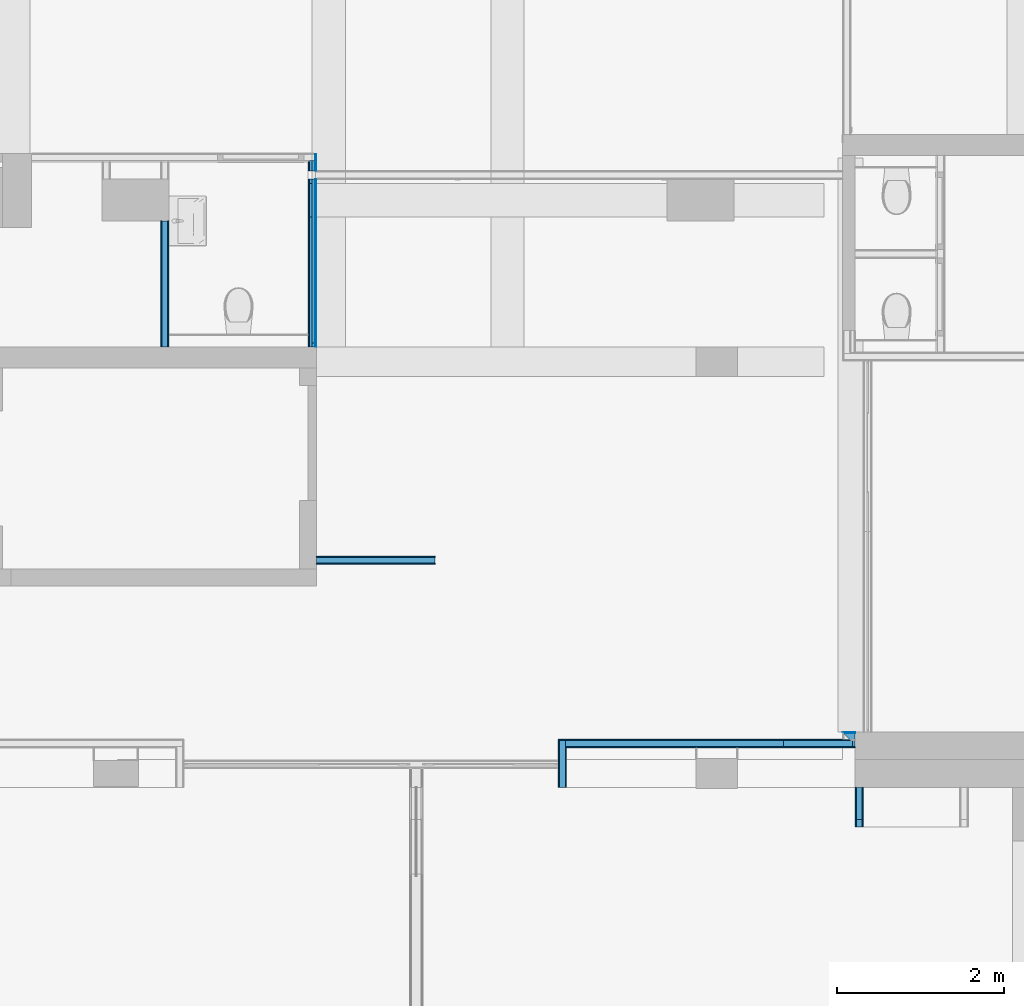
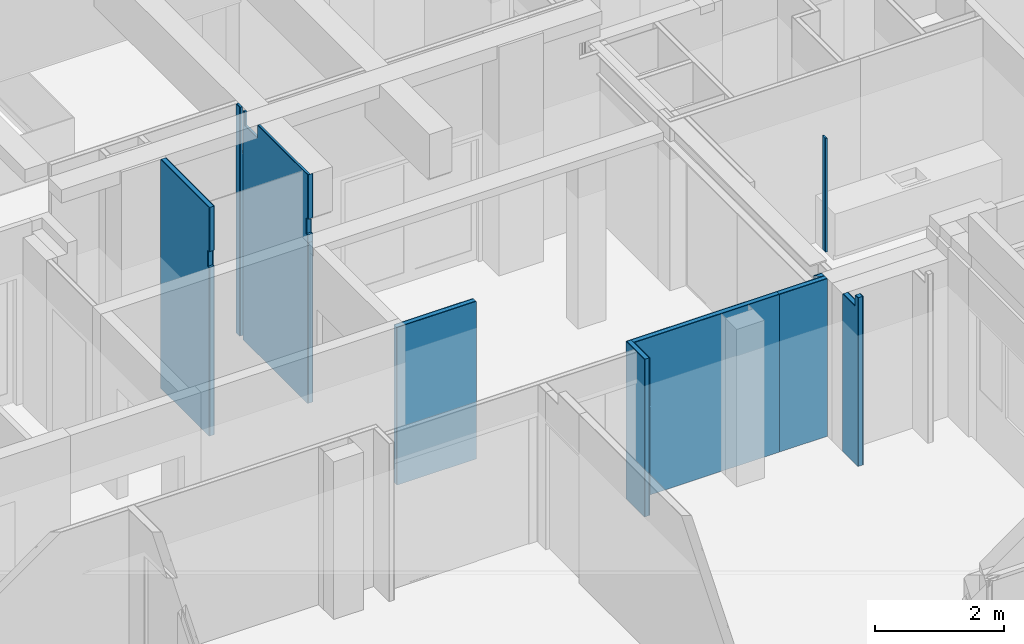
# One storey, part 75 of 117: 23 building element parts, 8 elements without a shape of their own.
"""IFC2X3 building model written with IfcOpenShell, lengths in millimetres."""

from ifc_helpers import new_model, entity, si_unit, converted_unit, derived_unit, money_unit, direction, frame, origin_with_axes, place, context, subcontext, project, spatial, faceted_brep, material, type_object, element, aggregate, save


model = new_model("IFC2X3")

# Units and contexts
model_context = context("Model", 3, precision=0.01, world=origin_with_axes(), true_north=direction((0.0, 1.0)))
body_context = subcontext(model_context, "Body", "Model", "MODEL_VIEW")
ifc_project = project(units=[si_unit("LENGTHUNIT", "METRE", prefix="MILLI"), si_unit("AREAUNIT", "SQUARE_METRE"), si_unit("VOLUMEUNIT", "CUBIC_METRE"), converted_unit("PLANEANGLEUNIT", "DEGREE", entity("IfcPlaneAngleMeasure", 0.0174532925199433), si_unit("PLANEANGLEUNIT", "RADIAN"), dimensions=[0, 0, 0, 0, 0, 0, 0]), money_unit("EUR"), converted_unit("TIMEUNIT", "Year", entity("IfcTimeMeasure", 31557600.0), si_unit("TIMEUNIT", "SECOND"), dimensions=[0, 0, 1, 0, 0, 0, 0]), si_unit("MASSUNIT", "GRAM", prefix="KILO"), si_unit("THERMODYNAMICTEMPERATUREUNIT", "DEGREE_CELSIUS"), si_unit("LUMINOUSINTENSITYUNIT", "LUMEN"), si_unit("ENERGYUNIT", "JOULE", prefix="MEGA"), derived_unit("THERMALCONDUCTANCEUNIT", [(si_unit("POWERUNIT", "WATT"), 1), (si_unit("LENGTHUNIT", "METRE"), -1), (si_unit("THERMODYNAMICTEMPERATUREUNIT", "KELVIN"), -1)]), derived_unit("SPECIFICHEATCAPACITYUNIT", [(si_unit("ENERGYUNIT", "JOULE"), 1), (si_unit("MASSUNIT", "GRAM", prefix="KILO"), -1), (si_unit("THERMODYNAMICTEMPERATUREUNIT", "KELVIN"), -1)]), derived_unit("MASSDENSITYUNIT", [(si_unit("MASSUNIT", "GRAM", prefix="KILO"), 1), (si_unit("VOLUMEUNIT", "CUBIC_METRE"), -1)])], contexts=[model_context])

# Site, building, storey
site_placement = place(None, origin_with_axes())
site = spatial("IfcSite", under=ifc_project, at=site_placement, Name="Site", CompositionType="ELEMENT")
building_placement = place(site_placement, origin_with_axes())
building = spatial("IfcBuilding", under=site, at=building_placement, Name="Naam gebouw", CompositionType="ELEMENT")
storey_placement = place(building_placement, frame((0.0, 0.0, 4150.0), z_axis=(0.0, 0.0, 1.0), x_axis=(1.0, 0.0, 0.0)))
storey = spatial("IfcBuildingStorey", under=building, at=storey_placement, Name="1e verdieping N", CompositionType="ELEMENT", Elevation=4150.0)

# Wall, building element parts
wall_type = type_object("IfcWallType", Name="Metalstud iso 100 100", PredefinedType="NOTDEFINED")
wall_1_placement = place(storey_placement, frame((24002.99999999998, 17824.75122651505, 0.0), z_axis=(0.0, 0.0, 1.0), x_axis=(0.0, -1.0, 0.0)))
wall_1 = element("IfcWall", 1, at=wall_1_placement, inside=storey, type_object=wall_type, Name="_Wand-x")
ifc_material_1 = material(Name="Gipsplaat")
building_element_part_1_placement = place(wall_1_placement, origin_with_axes())
building_element_part_1 = element("IfcBuildingElementPart", 2, at=building_element_part_1_placement, material=ifc_material_1, Name="Gipsplaat", context=body_context, shape_type="Brep", body=[
    faceted_brep([(-87.49999999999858, -12.49999999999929, 3449.999999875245), (-87.49999999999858, 0.0, 3449.999999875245), (-87.49999999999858, 0.0, 0.0), (-87.49999999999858, -12.49999999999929, 0.0), (108.8388014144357, 0.0, 3449.999999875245), (108.8388014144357, -12.49999999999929, 3449.999999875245), (108.8388014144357, 0.0, 0.0), (108.8388014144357, -12.49999999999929, 0.0)], [[[0, 1, 2, 3]], [[4, 1, 0, 5]], [[1, 4, 6, 2]], [[2, 6, 7, 3]], [[5, 0, 3, 7]], [[4, 5, 7, 6]]]),
    faceted_brep([(2216.338801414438, 0.0, 3500.0), (2216.338801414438, 0.0, 4340.0), (2218.143186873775, 0.0, 4340.0), (2218.143186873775, 0.0, 3500.0), (2216.338801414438, -12.49999999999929, 4340.0), (2216.338801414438, -12.49999999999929, 3500.0), (2218.143186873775, -12.49999999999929, 4340.0), (2218.143186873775, -12.49999999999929, 3500.0)], [[[0, 1, 2, 3]], [[4, 1, 0, 5]], [[1, 4, 6, 2]], [[6, 7, 3, 2]], [[5, 0, 3, 7]], [[4, 5, 7, 6]]]),
    faceted_brep([(208.8388014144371, -12.49999999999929, 3449.999999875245), (208.8388014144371, 0.0, 3449.999999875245), (208.8388014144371, 0.0, 0.0), (208.8388014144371, -12.49999999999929, 0.0), (2173.838770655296, 0.0, 3449.999999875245), (2173.838770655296, -12.49999999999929, 3449.999999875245), (2173.838770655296, 0.0, 3200.0), (2216.338801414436, 0.0, 3200.0), (2216.338801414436, 0.0, 3049.999999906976), (2218.143186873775, 0.0, 3049.999999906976), (2218.143186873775, 0.0, 0.0), (2218.143186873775, -12.49999999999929, 0.0), (2218.143186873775, -12.49999999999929, 3049.999999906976), (2216.338801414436, -12.49999999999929, 3049.999999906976), (2216.338801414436, -12.49999999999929, 3200.0), (2173.838770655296, -12.49999999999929, 3200.0)], [[[0, 1, 2, 3]], [[4, 1, 0, 5]], [[1, 4, 6, 7, 8, 9, 10, 2]], [[3, 2, 10, 11]], [[5, 0, 3, 11, 12, 13, 14, 15]], [[4, 5, 15, 6]], [[14, 7, 6, 15]], [[8, 7, 14, 13]], [[9, 8, 13, 12]], [[9, 12, 11, 10]]]),
])
building_element_part_2_placement = place(wall_1_placement, origin_with_axes())
building_element_part_2 = element("IfcBuildingElementPart", 3, at=building_element_part_2_placement, material=ifc_material_1, Name="Gipsplaat", context=body_context, shape_type="Brep", body=[
    faceted_brep([(0.0, -87.49999999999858, 0.0), (108.8388014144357, -87.49999999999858, 0.0), (108.8388014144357, -100.0000000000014, 0.0), (0.0, -100.0000000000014, 0.0), (0.0, -87.49999999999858, 4340.0), (108.8388014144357, -87.49999999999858, 4340.0), (108.8388014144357, -100.0000000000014, 4340.0), (0.0, -100.0000000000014, 4340.0)], [[[0, 1, 2, 3]], [[4, 5, 1, 0]], [[6, 2, 1, 5]], [[3, 2, 6, 7]], [[7, 4, 0, 3]], [[7, 6, 5, 4]]]),
    faceted_brep([(258.8388014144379, -100.0000000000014, 4340.0), (258.8388014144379, -87.49999999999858, 4340.0), (208.8388014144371, -87.49999999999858, 4340.0), (208.8388014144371, -100.0000000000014, 4340.0), (258.8388014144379, -87.49999999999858, 4089.999999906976), (258.8388014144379, -100.0000000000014, 4089.999999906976), (658.8388014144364, -87.49999999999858, 4089.999999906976), (658.8388014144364, -87.49999999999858, 4340.0), (2218.143186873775, -87.49999999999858, 4340.0), (2218.143186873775, -87.49999999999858, 3500.0), (2173.838770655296, -87.49999999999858, 3500.0), (2173.838770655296, -87.49999999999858, 3200.0), (2216.338801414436, -87.49999999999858, 3200.0), (2216.338801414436, -87.49999999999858, 3049.999999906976), (2218.143186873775, -87.49999999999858, 3049.999999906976), (2218.143186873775, -87.49999999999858, 0.0), (208.8388014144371, -87.49999999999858, 0.0), (208.8388014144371, -100.0000000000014, 0.0), (2218.143186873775, -100.0000000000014, 0.0), (2218.143186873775, -100.0000000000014, 3049.999999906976), (2216.338801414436, -100.0000000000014, 3049.999999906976), (2216.338801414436, -100.0000000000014, 3200.0), (2173.838770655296, -100.0000000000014, 3200.0), (2173.838770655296, -100.0000000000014, 3500.0), (2218.143186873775, -100.0000000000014, 3500.0), (2218.143186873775, -100.0000000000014, 4340.0), (658.8388014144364, -100.0000000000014, 4340.0), (658.8388014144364, -100.0000000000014, 4089.999999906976)], [[[0, 1, 2, 3]], [[4, 1, 0, 5]], [[6, 7, 8, 9, 10, 11, 12, 13, 14, 15, 16, 2, 1, 4]], [[3, 2, 16, 17]], [[5, 0, 3, 17, 18, 19, 20, 21, 22, 23, 24, 25, 26, 27]], [[6, 4, 5, 27]], [[26, 7, 6, 27]], [[7, 26, 25, 8]], [[25, 24, 9, 8]], [[23, 10, 9, 24]], [[22, 11, 10, 23]], [[21, 12, 11, 22]], [[13, 12, 21, 20]], [[14, 13, 20, 19]], [[14, 19, 18, 15]], [[17, 16, 15, 18]]]),
])
ifc_material_2 = material(Name="Isolatie - Steenwol LSW")
building_element_part_3_placement = place(wall_1_placement, origin_with_axes())
building_element_part_3 = element("IfcBuildingElementPart", 4, at=building_element_part_3_placement, material=ifc_material_2, Name="Isolatie - Steenwol LSW", context=body_context, shape_type="Brep", body=[
    faceted_brep([(-12.49999999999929, -52.99999999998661, 4340.0), (-12.49999999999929, -52.99999999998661, 3449.999999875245), (-12.49999999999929, -12.49999999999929, 3449.999999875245), (-12.49999999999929, -12.49999999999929, 0.0), (-12.49999999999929, -87.49999999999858, 0.0), (-12.49999999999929, -87.49999999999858, 4340.0), (108.8388014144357, -52.99999999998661, 4340.0), (108.8388014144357, -52.99999999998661, 3449.999999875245), (108.8388014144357, -12.49999999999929, 3449.999999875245), (108.8388014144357, -12.49999999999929, 0.0), (108.8388014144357, -87.49999999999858, 0.0), (108.8388014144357, -87.49999999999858, 4340.0)], [[[0, 1, 2, 3, 4, 5]], [[1, 0, 6, 7]], [[8, 2, 1, 7]], [[2, 8, 9, 3]], [[3, 9, 10, 4]], [[4, 10, 11, 5]], [[6, 0, 5, 11]], [[7, 6, 11, 10, 9, 8]]]),
    faceted_brep([(208.8388014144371, -52.99999999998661, 4340.0), (208.8388014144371, -52.99999999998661, 3449.999999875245), (208.8388014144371, -12.49999999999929, 3449.999999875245), (208.8388014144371, -12.49999999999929, 0.0), (208.8388014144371, -87.49999999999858, 0.0), (208.8388014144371, -87.49999999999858, 4340.0), (258.8388014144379, -52.99999999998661, 4340.0), (258.8388014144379, -52.99999999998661, 4089.999999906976), (658.8388014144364, -52.99999999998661, 4089.999999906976), (658.8388014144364, -52.99999999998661, 4340.0), (2216.338801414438, -52.99999999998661, 4340.0), (2216.338801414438, -52.99999999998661, 3500.0), (2173.838770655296, -52.99999999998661, 3500.0), (2173.838770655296, -52.99999999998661, 3449.999999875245), (2173.838770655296, -12.49999999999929, 3449.999999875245), (2173.838770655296, -12.49999999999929, 3200.0), (2216.338801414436, -12.49999999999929, 3200.0), (2216.338801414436, -12.49999999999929, 3049.999999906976), (2218.143186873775, -12.49999999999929, 3049.999999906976), (2218.143186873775, -12.49999999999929, 0.0), (2218.143186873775, -87.49999999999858, 0.0), (258.8388014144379, -87.49999999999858, 4089.999999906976), (258.8388014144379, -87.49999999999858, 4340.0), (2218.143186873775, -87.49999999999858, 3049.999999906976), (2216.338801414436, -87.49999999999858, 3049.999999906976), (2216.338801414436, -87.49999999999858, 3200.0), (2173.838770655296, -87.49999999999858, 3200.0), (2173.838770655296, -87.49999999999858, 3500.0), (2218.143186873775, -87.49999999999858, 3500.0), (2218.143186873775, -87.49999999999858, 4340.0), (658.8388014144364, -87.49999999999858, 4340.0), (658.8388014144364, -87.49999999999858, 4089.999999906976), (2218.143186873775, -12.49999999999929, 4340.0), (2216.338801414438, -12.49999999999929, 4340.0), (2216.338801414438, -12.49999999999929, 3500.0), (2218.143186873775, -12.49999999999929, 3500.0)], [[[0, 1, 2, 3, 4, 5]], [[1, 0, 6, 7, 8, 9, 10, 11, 12, 13]], [[14, 2, 1, 13]], [[2, 14, 15, 16, 17, 18, 19, 3]], [[4, 3, 19, 20]], [[21, 22, 5, 4, 20, 23, 24, 25, 26, 27, 28, 29, 30, 31]], [[6, 0, 5, 22]], [[7, 6, 22, 21]], [[8, 7, 21, 31]], [[9, 8, 31, 30]], [[10, 9, 30, 29, 32, 33]], [[10, 33, 34, 11]], [[11, 34, 35, 28, 27, 12]], [[13, 12, 27, 26, 15, 14]], [[25, 16, 15, 26]], [[17, 16, 25, 24]], [[18, 17, 24, 23]], [[18, 23, 20, 19]], [[29, 28, 35, 32]], [[34, 33, 32, 35]]]),
])
aggregate(wall_1, [building_element_part_1, building_element_part_2, building_element_part_3])

wall_2_placement = place(storey_placement, frame((22136.0, 17115.91242510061, 0.0), z_axis=(0.0, 0.0, 1.0), x_axis=(0.0, -1.0, 0.0)))
wall_2 = element("IfcWall", 5, at=wall_2_placement, inside=storey, type_object=wall_type, Name="_Wand-x")
building_element_part_4_placement = place(wall_2_placement, origin_with_axes())
building_element_part_4 = element("IfcBuildingElementPart", 6, at=building_element_part_4_placement, material=ifc_material_1, Name="Gipsplaat", context=body_context, shape_type="Brep", body=[
    faceted_brep([(1464.999969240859, 12.49999999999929, 3500.0), (1464.999969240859, 12.49999999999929, 3200.0), (1509.304385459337, 12.49999999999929, 3200.0), (1509.304385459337, 12.49999999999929, 0.0), (0.0, 12.49999999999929, 0.0), (0.0, 12.49999999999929, 4340.0), (1509.304385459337, 12.49999999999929, 4340.0), (1509.304385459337, 12.49999999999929, 3500.0), (1464.999969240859, 0.0, 3200.0), (1464.999969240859, 0.0, 3500.0), (1509.304385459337, 0.0, 3200.0), (1509.304385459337, 0.0, 0.0), (0.0, 0.0, 0.0), (0.0, 0.0, 4340.0), (1509.304385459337, 0.0, 4340.0), (1509.304385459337, 0.0, 3500.0)], [[[0, 1, 2, 3, 4, 5, 6, 7]], [[8, 1, 0, 9]], [[10, 2, 1, 8]], [[3, 2, 10, 11]], [[12, 4, 3, 11]], [[4, 12, 13, 5]], [[5, 13, 14, 6]], [[14, 15, 7, 6]], [[9, 0, 7, 15]], [[8, 9, 15, 14, 13, 12, 11, 10]]]),
])
building_element_part_5_placement = place(wall_2_placement, origin_with_axes())
building_element_part_5 = element("IfcBuildingElementPart", 7, at=building_element_part_5_placement, material=ifc_material_1, Name="Gipsplaat", context=body_context, shape_type="Brep", body=[
    faceted_brep([(1464.999969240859, 100.0000000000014, 3500.0), (1464.999969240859, 100.0000000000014, 3200.0), (1509.304385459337, 100.0000000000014, 3200.0), (1509.304385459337, 100.0000000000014, 0.0), (0.0, 100.0000000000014, 0.0), (0.0, 100.0000000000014, 4340.0), (1509.304385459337, 100.0000000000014, 4340.0), (1509.304385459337, 100.0000000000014, 3500.0), (1464.999969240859, 87.49999999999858, 3200.0), (1464.999969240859, 87.49999999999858, 3500.0), (1509.304385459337, 87.49999999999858, 3200.0), (1509.304385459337, 87.49999999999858, 0.0), (0.0, 87.49999999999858, 0.0), (0.0, 87.49999999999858, 4340.0), (1509.304385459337, 87.49999999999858, 4340.0), (1509.304385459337, 87.49999999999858, 3500.0)], [[[0, 1, 2, 3, 4, 5, 6, 7]], [[8, 1, 0, 9]], [[10, 2, 1, 8]], [[3, 2, 10, 11]], [[12, 4, 3, 11]], [[4, 12, 13, 5]], [[5, 13, 14, 6]], [[14, 15, 7, 6]], [[9, 0, 7, 15]], [[8, 9, 15, 14, 13, 12, 11, 10]]]),
])
building_element_part_6_placement = place(wall_2_placement, origin_with_axes())
building_element_part_6 = element("IfcBuildingElementPart", 8, at=building_element_part_6_placement, material=ifc_material_2, Name="Isolatie - Steenwol LSW", context=body_context, shape_type="Brep", body=[
    faceted_brep([(1464.999969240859, 87.49999999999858, 3500.0), (1464.999969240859, 87.49999999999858, 3200.0), (1509.304385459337, 87.49999999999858, 3200.0), (1509.304385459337, 87.49999999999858, 0.0), (0.0, 87.49999999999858, 0.0), (0.0, 87.49999999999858, 4340.0), (1509.304385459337, 87.49999999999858, 4340.0), (1509.304385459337, 87.49999999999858, 3500.0), (1464.999969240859, 12.49999999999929, 3200.0), (1464.999969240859, 12.49999999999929, 3500.0), (1509.304385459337, 12.49999999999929, 3200.0), (1509.304385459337, 12.49999999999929, 0.0), (0.0, 12.49999999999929, 0.0), (0.0, 12.49999999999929, 4340.0), (1509.304385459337, 12.49999999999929, 4340.0), (1509.304385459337, 12.49999999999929, 3500.0)], [[[0, 1, 2, 3, 4, 5, 6, 7]], [[8, 1, 0, 9]], [[10, 2, 1, 8]], [[3, 2, 10, 11]], [[12, 4, 3, 11]], [[4, 12, 13, 5]], [[5, 13, 14, 6]], [[14, 15, 7, 6]], [[9, 0, 7, 15]], [[8, 9, 15, 14, 13, 12, 11, 10]]]),
])
aggregate(wall_2, [building_element_part_4, building_element_part_5, building_element_part_6])

wall_3_placement = place(storey_placement, frame((29599.99999999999, 10805.91242510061, 0.0), z_axis=(0.0, 0.0, 1.0), x_axis=(1.0, 0.0, 0.0)))
wall_3 = element("IfcWall", 9, at=wall_3_placement, inside=storey, type_object=wall_type, Name="_Wand-x")
building_element_part_7_placement = place(wall_3_placement, origin_with_axes())
building_element_part_7 = element("IfcBuildingElementPart", 10, at=building_element_part_7_placement, material=ifc_material_2, Name="Isolatie - Steenwol LSW", context=body_context, shape_type="Brep", body=[
    faceted_brep([(0.0, 87.50000000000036, 2990.000000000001), (857.0000065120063, 87.50000000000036, 2990.000000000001), (857.0000065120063, 87.50000000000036, 0.0), (0.0, 87.50000000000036, 0.0), (857.0000065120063, 12.50000000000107, 2990.000000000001), (0.0, 12.49999999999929, 2990.000000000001), (857.0000065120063, 12.49999999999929, 0.0), (0.0, 12.49999999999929, 0.0)], [[[0, 1, 2, 3]], [[4, 1, 0, 5]], [[1, 4, 6, 2]], [[7, 3, 2, 6]], [[5, 0, 3, 7]], [[4, 5, 7, 6]]]),
    faceted_brep([(857.0000065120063, 12.50000000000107, 3500.0), (857.0000065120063, 87.50000000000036, 3500.0), (857.0000065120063, 87.50000000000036, 5659.999999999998), (857.0000065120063, 12.50000000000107, 5659.999999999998), (825.00000000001, 87.50000000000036, 3500.0), (825.00000000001, 12.49999999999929, 3500.0), (825.00000000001, 87.50000000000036, 5659.999999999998), (825.00000000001, 12.50000000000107, 5659.999999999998)], [[[0, 1, 2, 3]], [[4, 1, 0, 5]], [[1, 4, 6, 2]], [[2, 6, 7, 3]], [[5, 0, 3, 7]], [[4, 5, 7, 6]]]),
])
building_element_part_8_placement = place(wall_3_placement, origin_with_axes())
building_element_part_8 = element("IfcBuildingElementPart", 11, at=building_element_part_8_placement, material=ifc_material_1, Name="Gipsplaat", context=body_context, shape_type="Brep", body=[
    faceted_brep([(0.0, 12.49999999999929, 2990.000000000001), (857.0000065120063, 12.50000000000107, 2990.000000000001), (857.0000065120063, 12.49999999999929, 0.0), (0.0, 12.49999999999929, 0.0), (857.0000065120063, 0.0, 2990.000000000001), (0.0, 0.0, 2990.000000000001), (857.0000065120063, 0.0, 0.0), (0.0, 0.0, 0.0)], [[[0, 1, 2, 3]], [[4, 1, 0, 5]], [[1, 4, 6, 2]], [[7, 3, 2, 6]], [[5, 0, 3, 7]], [[4, 5, 7, 6]]]),
    faceted_brep([(857.0000065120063, 0.0, 3500.0), (857.0000065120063, 12.50000000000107, 3500.0), (857.0000065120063, 12.50000000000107, 5659.999999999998), (857.0000065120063, 0.0, 5659.999999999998), (825.00000000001, 12.49999999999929, 3500.0), (825.00000000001, 0.0, 3500.0), (825.00000000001, 12.50000000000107, 5659.999999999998), (825.00000000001, 0.0, 5659.999999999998)], [[[0, 1, 2, 3]], [[4, 1, 0, 5]], [[1, 4, 6, 2]], [[2, 6, 7, 3]], [[5, 0, 3, 7]], [[4, 5, 7, 6]]]),
])
building_element_part_9_placement = place(wall_3_placement, origin_with_axes())
building_element_part_9 = element("IfcBuildingElementPart", 12, at=building_element_part_9_placement, material=ifc_material_1, Name="Gipsplaat", context=body_context, shape_type="Brep", body=[
    faceted_brep([(0.0, 99.99999999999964, 2990.000000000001), (857.0000065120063, 99.99999999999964, 2990.000000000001), (857.0000065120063, 99.99999999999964, 0.0), (0.0, 99.99999999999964, 0.0), (857.0000065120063, 87.50000000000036, 2990.000000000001), (0.0, 87.50000000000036, 2990.000000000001), (857.0000065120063, 87.50000000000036, 0.0), (0.0, 87.50000000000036, 0.0)], [[[0, 1, 2, 3]], [[4, 1, 0, 5]], [[1, 4, 6, 2]], [[7, 3, 2, 6]], [[5, 0, 3, 7]], [[4, 5, 7, 6]]]),
    faceted_brep([(857.0000065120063, 87.50000000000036, 3500.0), (857.0000065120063, 99.99999999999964, 3500.0), (857.0000065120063, 99.99999999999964, 5659.999999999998), (857.0000065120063, 87.50000000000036, 5659.999999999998), (825.00000000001, 99.99999999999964, 3500.0), (825.00000000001, 87.50000000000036, 3500.0), (825.00000000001, 99.99999999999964, 5659.999999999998), (825.00000000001, 87.50000000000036, 5659.999999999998)], [[[0, 1, 2, 3]], [[4, 1, 0, 5]], [[1, 4, 6, 2]], [[2, 6, 7, 3]], [[5, 0, 3, 7]], [[4, 5, 7, 6]]]),
])
aggregate(wall_3, [building_element_part_7, building_element_part_8, building_element_part_9])

wall_4_placement = place(storey_placement, frame((30306.99999999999, 10990.91242510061, 0.0), z_axis=(0.0, 0.0, 1.0), x_axis=(1.0, 0.0, 0.0)))
wall_4 = element("IfcWall", 13, at=wall_4_placement, inside=storey, type_object=wall_type, Name="_Wand-x")
building_element_part_10_placement = place(wall_4_placement, origin_with_axes())
building_element_part_10 = element("IfcBuildingElementPart", 14, at=building_element_part_10_placement, material=ifc_material_1, Name="Gipsplaat", context=body_context, shape_type="Brep", body=[
    faceted_brep([(0.0, 0.0, 2990.000000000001), (149.9999999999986, 0.0, 2990.000000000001), (149.9999999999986, 0.0, 0.0), (0.0, 0.0, 0.0), (149.9999999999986, -12.49999999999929, 2990.000000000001), (12.49999999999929, -12.49999999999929, 2990.000000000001), (149.9999999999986, -12.49999999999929, 0.0), (12.49999999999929, -12.49999999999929, 0.0)], [[[0, 1, 2, 3]], [[4, 1, 0, 5]], [[1, 4, 6, 2]], [[6, 7, 3, 2]], [[5, 0, 3, 7]], [[4, 5, 7, 6]]]),
])
building_element_part_11_placement = place(wall_4_placement, origin_with_axes())
building_element_part_11 = element("IfcBuildingElementPart", 15, at=building_element_part_11_placement, material=ifc_material_2, Name="Isolatie - Steenwol LSW", context=body_context, shape_type="Brep", body=[
    faceted_brep([(12.49999999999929, -12.49999999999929, 2990.000000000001), (149.9999999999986, -12.49999999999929, 2990.000000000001), (149.9999999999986, -12.49999999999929, 0.0), (12.49999999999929, -12.49999999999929, 0.0), (149.9999999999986, -87.50000000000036, 2990.000000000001), (87.50000000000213, -87.50000000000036, 2990.000000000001), (149.9999999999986, -87.50000000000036, 0.0), (87.50000000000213, -87.50000000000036, 0.0)], [[[0, 1, 2, 3]], [[4, 1, 0, 5]], [[1, 4, 6, 2]], [[6, 7, 3, 2]], [[5, 0, 3, 7]], [[4, 5, 7, 6]]]),
])
aggregate(wall_4, [building_element_part_10, building_element_part_11])

wall_5_placement = place(storey_placement, frame((27000.0, 10805.91242510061, 0.0), z_axis=(0.0, 0.0, 1.0), x_axis=(0.0, -1.0, 0.0)))
wall_5 = element("IfcWall", 16, at=wall_5_placement, inside=storey, type_object=wall_type, Name="_Wand-x")
building_element_part_12_placement = place(wall_5_placement, origin_with_axes())
building_element_part_12 = element("IfcBuildingElementPart", 17, at=building_element_part_12_placement, material=ifc_material_1, Name="Gipsplaat", context=body_context, shape_type="Brep", body=[
    faceted_brep([(25.00002620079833, 0.0, 2049.999999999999), (475.0000233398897, 0.0, 2049.999999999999), (475.0000000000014, 0.0, 0.0), (-12.50000000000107, 0.0, 0.0), (-12.49999999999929, 0.0, 2159.999999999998), (-12.50000000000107, 0.0, 2990.000000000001), (475.0000000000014, 0.0, 2990.000000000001), (475.0000233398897, 0.0, 2069.999999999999), (25.00002620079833, 0.0, 2069.999999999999), (25.00002620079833, -12.49999999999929, 2049.999999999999), (475.0000233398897, -12.49999999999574, 2049.999999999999), (475.0000000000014, -12.49999999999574, 0.0), (-12.50000000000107, -12.49999999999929, 0.0), (-12.50000000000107, -12.50000000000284, 2990.000000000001), (-12.49999999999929, -12.49999999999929, 2159.999999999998), (475.0000000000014, -12.49999999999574, 2990.000000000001), (475.0000233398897, -12.49999999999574, 2069.999999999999), (25.00002620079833, -12.49999999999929, 2069.999999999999)], [[[0, 1, 2, 3, 4, 5, 6, 7, 8]], [[1, 0, 9, 10]], [[1, 10, 11, 2]], [[11, 12, 3, 2]], [[13, 5, 4, 3, 12, 14]], [[6, 5, 13, 15]], [[16, 7, 6, 15]], [[8, 7, 16, 17]], [[0, 8, 17, 9]], [[17, 16, 15, 13, 14, 12, 11, 10, 9]]]),
])
building_element_part_13_placement = place(wall_5_placement, origin_with_axes())
building_element_part_13 = element("IfcBuildingElementPart", 18, at=building_element_part_13_placement, material=ifc_material_2, Name="Isolatie - Steenwol LSW", context=body_context, shape_type="Brep", body=[
    faceted_brep([(25.00002620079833, -12.50000000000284, 2049.999999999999), (475.0000233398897, -12.49999999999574, 2049.999999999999), (475.0000000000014, -12.49999999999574, 0.0), (-87.50000000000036, -12.49999999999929, 0.0), (-87.50000000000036, -12.49999999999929, 2159.999999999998), (-87.50000000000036, -12.50000000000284, 2990.000000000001), (475.0000000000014, -12.49999999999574, 2990.000000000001), (475.0000233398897, -12.49999999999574, 2069.999999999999), (25.00002620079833, -12.50000000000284, 2069.999999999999), (25.00002620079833, -14.99999999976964, 2049.999999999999), (475.0000233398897, -14.99999999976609, 2049.999999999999), (475.0000233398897, -14.99999999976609, 2069.999999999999), (475.0000000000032, -87.49999999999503, 2990.000000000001), (475.0000000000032, -87.49999999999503, 0.0), (-87.49999999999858, -87.49999999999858, 0.0), (-87.49999999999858, -87.50000000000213, 2990.000000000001), (-87.49999999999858, -87.49999999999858, 2159.999999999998), (25.00002620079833, -14.99999999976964, 2069.999999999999)], [[[0, 1, 2, 3, 4, 5, 6, 7, 8]], [[1, 0, 9, 10]], [[11, 7, 6, 12, 13, 2, 1, 10]], [[13, 14, 3, 2]], [[15, 5, 4, 3, 14, 16]], [[6, 5, 15, 12]], [[8, 7, 11, 17]], [[0, 8, 17, 9]], [[11, 10, 9, 17]], [[12, 15, 16, 14, 13]]]),
])
building_element_part_14_placement = place(wall_5_placement, origin_with_axes())
building_element_part_14 = element("IfcBuildingElementPart", 19, at=building_element_part_14_placement, material=ifc_material_1, Name="Gipsplaat", context=body_context, shape_type="Brep", body=[
    faceted_brep([(-99.99999915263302, -100.0000071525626, 2990.000000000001), (-100.000003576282, -87.49999999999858, 2990.000000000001), (-100.000003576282, -87.49999999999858, 0.0), (-100.000003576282, -100.0000071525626, 0.0), (-99.99999195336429, -100.0000071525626, 2159.999999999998), (475.0000000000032, -87.49999999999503, 2990.000000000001), (475.0000000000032, -99.99999999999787, 2990.000000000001), (475.0000000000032, -87.49999999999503, 0.0), (475.0000000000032, -99.99999999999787, 0.0)], [[[0, 1, 2, 3, 4]], [[5, 1, 0, 6]], [[1, 5, 7, 2]], [[7, 8, 3, 2]], [[6, 0, 4, 3, 8]], [[5, 6, 8, 7]]]),
])
aggregate(wall_5, [building_element_part_12, building_element_part_13, building_element_part_14])

wall_6_placement = place(storey_placement, frame((30556.99999999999, 10330.91242510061, 0.0), z_axis=(0.0, 0.0, 1.0), x_axis=(0.0, -1.0, 0.0)))
wall_6 = element("IfcWall", 20, at=wall_6_placement, inside=storey, type_object=wall_type, Name="_Wand-x")
building_element_part_15_placement = place(wall_6_placement, origin_with_axes())
building_element_part_15 = element("IfcBuildingElementPart", 21, at=building_element_part_15_placement, material=ifc_material_1, Name="Gipsplaat", context=body_context, shape_type="Brep", body=[
    faceted_brep([(0.0, -12.49999999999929, 2990.000000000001), (0.0, 0.0, 2990.000000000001), (0.0, 0.0, 0.0), (0.0, -12.49999999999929, 0.0), (384.9999999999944, 0.0, 2990.000000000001), (384.9999999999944, -12.49999999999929, 2990.000000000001), (384.9999999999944, 0.0, 3200.000000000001), (474.9999999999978, 0.0, 3200.0), (474.9999999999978, 0.0, 0.0), (474.9999999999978, -12.49999999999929, 0.0), (474.9999999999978, -12.49999999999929, 3200.0), (384.9999999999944, -12.49999999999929, 3200.000000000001)], [[[0, 1, 2, 3]], [[4, 1, 0, 5]], [[4, 6, 7, 8, 2, 1]], [[2, 8, 9, 3]], [[5, 0, 3, 9, 10, 11]], [[11, 6, 4, 5]], [[6, 11, 10, 7]], [[7, 10, 9, 8]]]),
])
building_element_part_16_placement = place(wall_6_placement, origin_with_axes())
building_element_part_16 = element("IfcBuildingElementPart", 22, at=building_element_part_16_placement, material=ifc_material_2, Name="Isolatie - Steenwol LSW", context=body_context, shape_type="Brep", body=[
    faceted_brep([(0.0, -87.49999999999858, 2990.000000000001), (0.0, -12.49999999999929, 2990.000000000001), (0.0, -12.49999999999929, 0.0), (0.0, -87.49999999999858, 0.0), (384.9999999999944, -12.49999999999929, 2990.000000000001), (384.9999999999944, -87.49999999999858, 2990.000000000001), (384.9999999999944, -12.49999999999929, 3200.000000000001), (474.9999999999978, -12.49999999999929, 3200.0), (474.9999999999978, -12.49999999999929, 0.0), (474.9999999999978, -87.49999999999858, 0.0), (474.9999999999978, -87.49999999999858, 3200.0), (384.9999999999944, -87.49999999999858, 3200.000000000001)], [[[0, 1, 2, 3]], [[4, 1, 0, 5]], [[4, 6, 7, 8, 2, 1]], [[2, 8, 9, 3]], [[5, 0, 3, 9, 10, 11]], [[11, 6, 4, 5]], [[6, 11, 10, 7]], [[7, 10, 9, 8]]]),
])
building_element_part_17_placement = place(wall_6_placement, origin_with_axes())
building_element_part_17 = element("IfcBuildingElementPart", 23, at=building_element_part_17_placement, material=ifc_material_1, Name="Gipsplaat", context=body_context, shape_type="Brep", body=[
    faceted_brep([(0.0, -100.0000000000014, 2990.000000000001), (0.0, -87.49999999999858, 2990.000000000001), (0.0, -87.49999999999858, 0.0), (0.0, -100.0000000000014, 0.0), (384.9999999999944, -87.49999999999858, 2990.000000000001), (384.9999999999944, -100.0000000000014, 2990.000000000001), (384.9999999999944, -87.49999999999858, 3200.000000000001), (474.9999999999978, -87.49999999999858, 3200.0), (474.9999999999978, -87.49999999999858, 0.0), (474.9999999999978, -100.0000000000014, 0.0), (474.9999999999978, -100.0000000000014, 3200.0), (384.9999999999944, -100.0000000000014, 3200.000000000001)], [[[0, 1, 2, 3]], [[4, 1, 0, 5]], [[4, 6, 7, 8, 2, 1]], [[2, 8, 9, 3]], [[5, 0, 3, 9, 10, 11]], [[11, 6, 4, 5]], [[6, 11, 10, 7]], [[7, 10, 9, 8]]]),
])
aggregate(wall_6, [building_element_part_15, building_element_part_16, building_element_part_17])

wall_7_placement = place(storey_placement, frame((27000.0, 10805.91242510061, 0.0), z_axis=(0.0, 0.0, 1.0), x_axis=(1.0, 0.0, 0.0)))
wall_7 = element("IfcWall", 24, at=wall_7_placement, inside=storey, type_object=wall_type, Name="_Wand-x")
building_element_part_18_placement = place(wall_7_placement, origin_with_axes())
building_element_part_18 = element("IfcBuildingElementPart", 25, at=building_element_part_18_placement, material=ifc_material_1, Name="Gipsplaat", context=body_context, shape_type="Brep", body=[
    faceted_brep([(-87.50000000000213, 100.000003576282, 2990.000000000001), (2599.999999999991, 99.99999999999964, 2990.000000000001), (2599.999999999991, 99.99999999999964, 0.0), (-87.49999999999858, 100.0000125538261, 0.0), (-87.49999999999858, 100.0000035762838, 2159.999999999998), (2599.999999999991, 87.50000000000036, 2990.000000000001), (-87.50000000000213, 87.50000000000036, 2990.000000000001), (2599.999999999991, 87.50000000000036, 0.0), (-87.49999999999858, 87.50000000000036, 0.0), (-87.49999999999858, 87.50000000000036, 2159.999999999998)], [[[0, 1, 2, 3, 4]], [[5, 1, 0, 6]], [[1, 5, 7, 2]], [[7, 8, 3, 2]], [[6, 0, 4, 3, 8, 9]], [[5, 6, 9, 8, 7]]]),
])
building_element_part_19_placement = place(wall_7_placement, origin_with_axes())
building_element_part_19 = element("IfcBuildingElementPart", 26, at=building_element_part_19_placement, material=ifc_material_2, Name="Isolatie - Steenwol LSW", context=body_context, shape_type="Brep", body=[
    faceted_brep([(-12.50000000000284, 87.50000000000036, 2990.000000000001), (2599.999999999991, 87.50000000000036, 2990.000000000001), (2599.999999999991, 87.50000000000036, 0.0), (-12.49999999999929, 87.50000000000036, 0.0), (-12.49999999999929, 87.50000000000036, 2159.999999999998), (2599.999999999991, 12.49999999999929, 2990.000000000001), (-12.50000000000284, 12.50000000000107, 2990.000000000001), (2599.999999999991, 12.49999999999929, 0.0), (-12.49999999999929, 12.50000000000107, 0.0), (-12.49999999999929, 12.50000000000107, 2159.999999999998)], [[[0, 1, 2, 3, 4]], [[5, 1, 0, 6]], [[1, 5, 7, 2]], [[7, 8, 3, 2]], [[6, 0, 4, 3, 8, 9]], [[5, 6, 9, 8, 7]]]),
])
building_element_part_20_placement = place(wall_7_placement, origin_with_axes())
building_element_part_20 = element("IfcBuildingElementPart", 27, at=building_element_part_20_placement, material=ifc_material_1, Name="Gipsplaat", context=body_context, shape_type="Brep", body=[
    faceted_brep([(0.0, 12.50000000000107, 2990.000000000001), (2599.999999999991, 12.49999999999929, 2990.000000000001), (2599.999999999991, 12.49999999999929, 0.0), (0.0, 12.50000000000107, 0.0), (0.0, 12.50000000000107, 2159.999999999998), (2599.999999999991, 0.0, 2990.000000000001), (0.0, 0.0, 2990.000000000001), (2599.999999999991, 0.0, 0.0), (0.0, 0.0, 0.0)], [[[0, 1, 2, 3, 4]], [[5, 1, 0, 6]], [[1, 5, 7, 2]], [[7, 8, 3, 2]], [[6, 0, 4, 3, 8]], [[5, 6, 8, 7]]]),
])
aggregate(wall_7, [building_element_part_18, building_element_part_19, building_element_part_20])

wall_8_placement = place(storey_placement, frame((23802.99999999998, 13100.91242510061, 0.0), z_axis=(0.0, 0.0, 1.0), x_axis=(1.0, 0.0, 0.0)))
wall_8 = element("IfcWall", 28, at=wall_8_placement, inside=storey, type_object=wall_type, Name="_Wand-x")
building_element_part_21_placement = place(wall_8_placement, origin_with_axes())
building_element_part_21 = element("IfcBuildingElementPart", 29, at=building_element_part_21_placement, material=ifc_material_2, Name="Isolatie - Steenwol LSW", context=body_context, shape_type="Brep", body=[
    faceted_brep([(199.9999999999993, -12.49999999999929, 2990.000000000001), (1623.547923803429, -12.49999999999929, 2990.000000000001), (1623.547923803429, -12.49999999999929, 0.0), (199.9999999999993, -12.49999999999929, 0.0), (1623.547923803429, -87.50000000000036, 2990.000000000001), (199.9999999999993, -87.50000000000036, 2990.000000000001), (1623.547923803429, -87.50000000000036, 0.0), (199.9999999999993, -87.50000000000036, 0.0)], [[[0, 1, 2, 3]], [[4, 1, 0, 5]], [[1, 4, 6, 2]], [[3, 2, 6, 7]], [[5, 0, 3, 7]], [[4, 5, 7, 6]]]),
])
building_element_part_22_placement = place(wall_8_placement, origin_with_axes())
building_element_part_22 = element("IfcBuildingElementPart", 30, at=building_element_part_22_placement, material=ifc_material_1, Name="Gipsplaat", context=body_context, shape_type="Brep", body=[
    faceted_brep([(199.9999999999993, 0.0, 2990.000000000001), (1623.547923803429, 0.0, 2990.000000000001), (1623.547923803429, 0.0, 0.0), (199.9999999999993, 0.0, 0.0), (1623.547923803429, -12.49999999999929, 2990.000000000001), (199.9999999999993, -12.49999999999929, 2990.000000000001), (1623.547923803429, -12.49999999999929, 0.0), (199.9999999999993, -12.49999999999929, 0.0)], [[[0, 1, 2, 3]], [[4, 1, 0, 5]], [[1, 4, 6, 2]], [[3, 2, 6, 7]], [[5, 0, 3, 7]], [[4, 5, 7, 6]]]),
])
building_element_part_23_placement = place(wall_8_placement, origin_with_axes())
building_element_part_23 = element("IfcBuildingElementPart", 31, at=building_element_part_23_placement, material=ifc_material_1, Name="Gipsplaat", context=body_context, shape_type="Brep", body=[
    faceted_brep([(199.9999999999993, -87.50000000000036, 2990.000000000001), (1623.547923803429, -87.50000000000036, 2990.000000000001), (1623.547923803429, -87.50000000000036, 0.0), (199.9999999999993, -87.50000000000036, 0.0), (1623.547923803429, -99.99999999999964, 2990.000000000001), (199.9999999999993, -99.99999999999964, 2990.000000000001), (1623.547923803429, -99.99999999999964, 0.0), (199.9999999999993, -99.99999999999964, 0.0)], [[[0, 1, 2, 3]], [[4, 1, 0, 5]], [[1, 4, 6, 2]], [[3, 2, 6, 7]], [[5, 0, 3, 7]], [[4, 5, 7, 6]]]),
])
aggregate(wall_8, [building_element_part_21, building_element_part_22, building_element_part_23])

save(model, "model.ifc")
